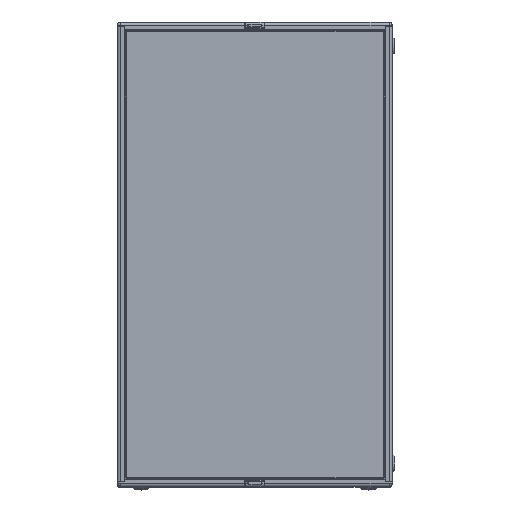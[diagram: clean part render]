
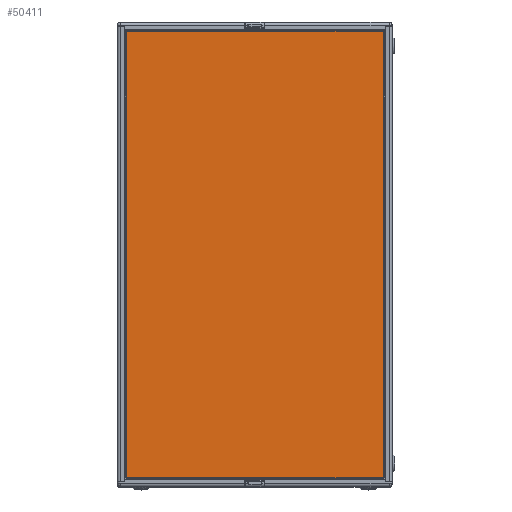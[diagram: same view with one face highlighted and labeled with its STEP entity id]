
A CAD part, top view. The second image highlights one B-rep face of the part: STEP entity #50411.
In plain terms, the highlighted planar face has unit normal (0, 0, 1) as drawn and (0, 1, 0) by its records, which use the part's own axes.
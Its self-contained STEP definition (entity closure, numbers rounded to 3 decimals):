
#535 = EDGE_LOOP ( 'NONE', ( #67442, #67437, #67383, #67436 ) ) ;
#836 = CARTESIAN_POINT ( 'NONE',  ( 0., 2., -948. ) ) ;
#843 = PLANE ( 'NONE',  #72460 ) ;
#847 = DIRECTION ( 'NONE',  ( 0., -1., 0. ) ) ;
#876 = DIRECTION ( 'NONE',  ( 0., 0., -1. ) ) ;
#11880 = CARTESIAN_POINT ( 'NONE',  ( 3., 2., -945. ) ) ;
#11881 = CARTESIAN_POINT ( 'NONE',  ( 545., 2., -3. ) ) ;
#11895 = CARTESIAN_POINT ( 'NONE',  ( 545., 2., -945. ) ) ;
#11915 = CARTESIAN_POINT ( 'NONE',  ( 3., 2., -3. ) ) ;
#43607 = EDGE_CURVE ( 'NONE', #59969, #59946, #68587, .T. ) ;
#43614 = EDGE_CURVE ( 'NONE', #59956, #59945, #68595, .T. ) ;
#43626 = EDGE_CURVE ( 'NONE', #59945, #59969, #68570, .T. ) ;
#43636 = EDGE_CURVE ( 'NONE', #59946, #59956, #68616, .T. ) ;
#50411 = ADVANCED_FACE ( 'NONE', ( #74820 ), #843, .F. ) ;
#59945 = VERTEX_POINT ( 'NONE', #11880 ) ;
#59946 = VERTEX_POINT ( 'NONE', #11881 ) ;
#59956 = VERTEX_POINT ( 'NONE', #11895 ) ;
#59969 = VERTEX_POINT ( 'NONE', #11915 ) ;
#67383 = ORIENTED_EDGE ( 'NONE', *, *, #43607, .T. ) ;
#67436 = ORIENTED_EDGE ( 'NONE', *, *, #43636, .T. ) ;
#67437 = ORIENTED_EDGE ( 'NONE', *, *, #43626, .T. ) ;
#67442 = ORIENTED_EDGE ( 'NONE', *, *, #43614, .T. ) ;
#68562 = VECTOR ( 'NONE', #70072, 1000. ) ;
#68570 = LINE ( 'NONE', #70071, #68562 ) ;
#68587 = LINE ( 'NONE', #70012, #68599 ) ;
#68595 = LINE ( 'NONE', #70059, #68596 ) ;
#68596 = VECTOR ( 'NONE', #70077, 1000. ) ;
#68599 = VECTOR ( 'NONE', #70046, 1000. ) ;
#68615 = VECTOR ( 'NONE', #70109, 1000. ) ;
#68616 = LINE ( 'NONE', #70133, #68615 ) ;
#70012 = CARTESIAN_POINT ( 'NONE',  ( 2.707, 2., -3. ) ) ;
#70046 = DIRECTION ( 'NONE',  ( 1., 0., 0. ) ) ;
#70059 = CARTESIAN_POINT ( 'NONE',  ( 545.293, 2., -945. ) ) ;
#70071 = CARTESIAN_POINT ( 'NONE',  ( 3., 2., -945.293 ) ) ;
#70072 = DIRECTION ( 'NONE',  ( 0., 0., 1. ) ) ;
#70077 = DIRECTION ( 'NONE',  ( -1., 0., 0. ) ) ;
#70109 = DIRECTION ( 'NONE',  ( 0., 0., -1. ) ) ;
#70133 = CARTESIAN_POINT ( 'NONE',  ( 545., 2., -2.707 ) ) ;
#72460 = AXIS2_PLACEMENT_3D ( 'NONE', #836, #847, #876 ) ;
#74820 = FACE_OUTER_BOUND ( 'NONE', #535, .T. ) ;
